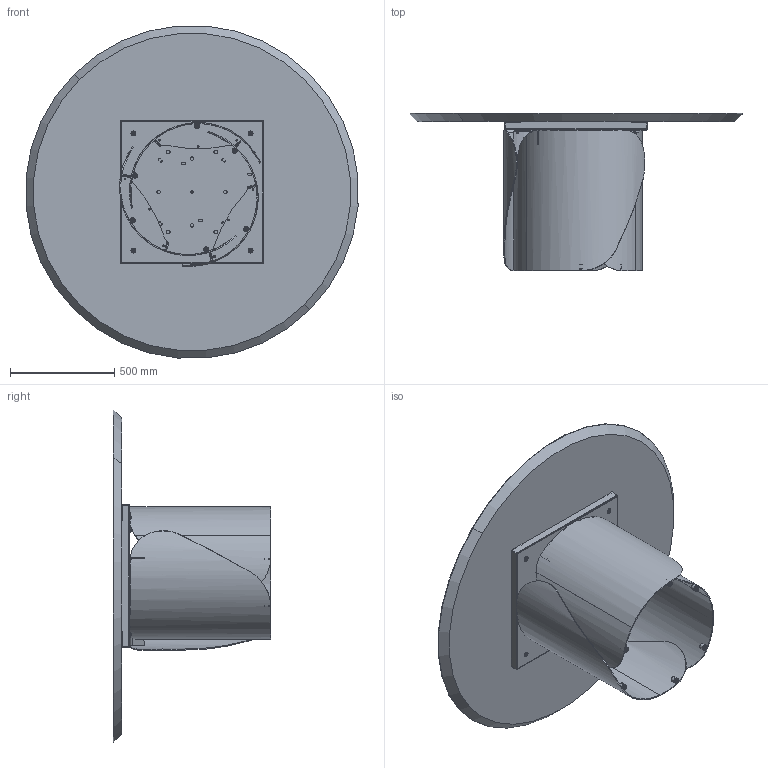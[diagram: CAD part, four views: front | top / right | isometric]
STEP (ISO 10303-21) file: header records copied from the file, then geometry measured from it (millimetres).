
FILE_DESCRIPTION (( 'STEP AP203' ), '1' );
FILE_NAME ('ON08W.STEP', '2024-08-06T13:31:51', ( '' ), ( '' ), 'SwSTEP 2.0', 'SolidWorks 2022', '' );
FILE_SCHEMA (( 'CONFIG_CONTROL_DESIGN' ));
Length unit declared in the file: millimetre
Products named in the file (15): COLLO BASE ONDA SINGOLA CON FERRAMENTA; W1XCMXX-00-Piani Rotondi legno_D.1600; TTAV0801-02-TELAIO UNIVERSALE TONDO; COLLO TELAIO UNIVERSALE TTAV0801 CON FERRAMENTA_MTG TOP LEGNO-MARMO-KING; M8xXXmm_M8x20mm; OND000000_02-00-CILINDRO DI FISSAGGIO Ø25X17 M8; rondella M8_8X24; OND000000_03-00-LAMIERA CURVATA PRINCIPALE_OND00000X-00-ONDA BASE GREZZA PROTOTIPO; TTAV0801 TELAIO UNIVERSALE TONDO-PIASTRINA; OND000000_01-00-PIASTRA SUPERIORE BASE ONDA; M8xXXmm_M8x55mm; TTAV0801-02-TELAIO UNIVERSALE TONDO-VASSOIO; PIEDINO PER ONDA; OND000000-03-ONDA BASE GREZZA; ON08W
Assembly tree (50 placements, depth 4):
  ON08W
    COLLO TELAIO UNIVERSALE TTAV0801 CON FERRAMENTA_MTG TOP LEGNO-MARMO-KING
      TTAV0801-02-TELAIO UNIVERSALE TONDO
        TTAV0801-02-TELAIO UNIVERSALE TONDO-VASSOIO
        TTAV0801 TELAIO UNIVERSALE TONDO-PIASTRINA  x4
      rondella M8_8X24  x4
      M8xXXmm_M8x55mm  x4
    COLLO BASE ONDA SINGOLA CON FERRAMENTA  x3
      OND000000-03-ONDA BASE GREZZA
        OND000000_03-00-LAMIERA CURVATA PRINCIPALE_OND00000X-00-ONDA BASE GREZZA PROTOTIPO
        OND000000_01-00-PIASTRA SUPERIORE BASE ONDA
        OND000000_02-00-CILINDRO DI FISSAGGIO Ø25X17 M8  x2
      PIEDINO PER ONDA
    rondella M8_8X24  x12
    M8xXXmm_M8x20mm  x12
    W1XCMXX-00-Piani Rotondi legno_D.1600
Bounding box: 1593.91 x 756 x 1593.91 mm (x, y, z)
Volume: 87797468.3 mm3; surface area: 8753282.2 mm2
Topology: 62 solids, 62 shells, 1703 faces, 4015 edges, 2464 vertices
Faces by surface type: plane 674, cylinder 567, torus 216, cone 186, bspline 60
Entity records: 20549 total; most frequent: CARTESIAN_POINT 4759, DIRECTION 2840, ORIENTED_EDGE 2704, EDGE_CURVE 1352, AXIS2_PLACEMENT_3D 1043, VERTEX_POINT 866, LINE 754, VECTOR 754
